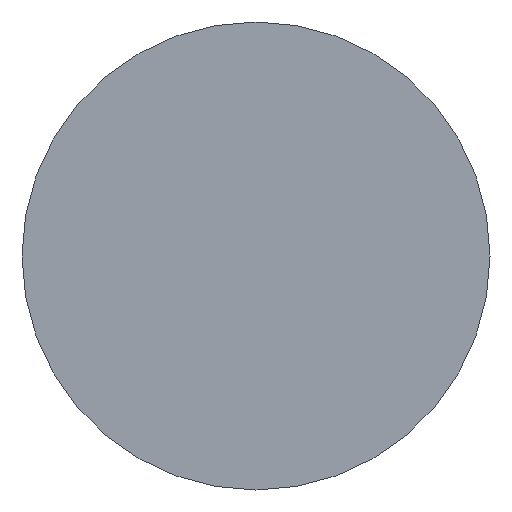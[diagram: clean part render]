
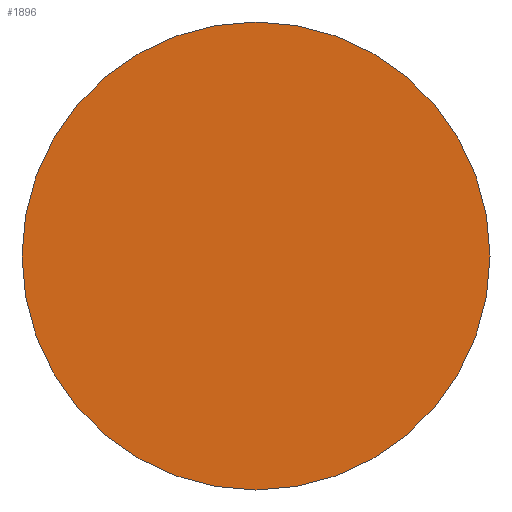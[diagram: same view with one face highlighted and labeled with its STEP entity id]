
A CAD part, front view. The second image highlights one B-rep face of the part: STEP entity #1896.
In plain terms, the highlighted planar face has unit normal (0, -1, 0).
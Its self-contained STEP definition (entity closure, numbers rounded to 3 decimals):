
#136 = AXIS2_PLACEMENT_3D ( 'NONE', #2965, #3891, #3244 ) ;
#838 = DIRECTION ( 'NONE',  ( 1., 0., 0. ) ) ;
#1173 = VERTEX_POINT ( 'NONE', #2204 ) ;
#1284 = ORIENTED_EDGE ( 'NONE', *, *, #3508, .T. ) ;
#1502 = DIRECTION ( 'NONE',  ( 0., -1., 0. ) ) ;
#1572 = CIRCLE ( 'NONE', #3989, 41. ) ;
#1848 = CARTESIAN_POINT ( 'NONE',  ( -41., -30., 0. ) ) ;
#1896 = ADVANCED_FACE ( 'NONE', ( #2551 ), #3800, .T. ) ;
#2023 = ORIENTED_EDGE ( 'NONE', *, *, #3729, .T. ) ;
#2174 = CARTESIAN_POINT ( 'NONE',  ( 0., -30., 0. ) ) ;
#2204 = CARTESIAN_POINT ( 'NONE',  ( 41., -30., 0. ) ) ;
#2527 = CARTESIAN_POINT ( 'NONE',  ( 41., -30., 0. ) ) ;
#2551 = FACE_OUTER_BOUND ( 'NONE', #2944, .T. ) ;
#2713 = DIRECTION ( 'NONE',  ( 0., -1., 0. ) ) ;
#2944 = EDGE_LOOP ( 'NONE', ( #2023, #1284 ) ) ;
#2965 = CARTESIAN_POINT ( 'NONE',  ( 0., -30., 0. ) ) ;
#3085 = CIRCLE ( 'NONE', #136, 41. ) ;
#3168 = DIRECTION ( 'NONE',  ( 1., 0., 0. ) ) ;
#3244 = DIRECTION ( 'NONE',  ( 1., 0., 0. ) ) ;
#3508 = EDGE_CURVE ( 'NONE', #3805, #1173, #1572, .T. ) ;
#3729 = EDGE_CURVE ( 'NONE', #1173, #3805, #3085, .T. ) ;
#3800 = PLANE ( 'NONE',  #4126 ) ;
#3805 = VERTEX_POINT ( 'NONE', #1848 ) ;
#3891 = DIRECTION ( 'NONE',  ( 0., -1., 0. ) ) ;
#3989 = AXIS2_PLACEMENT_3D ( 'NONE', #2174, #2713, #3168 ) ;
#4126 = AXIS2_PLACEMENT_3D ( 'NONE', #2527, #1502, #838 ) ;
